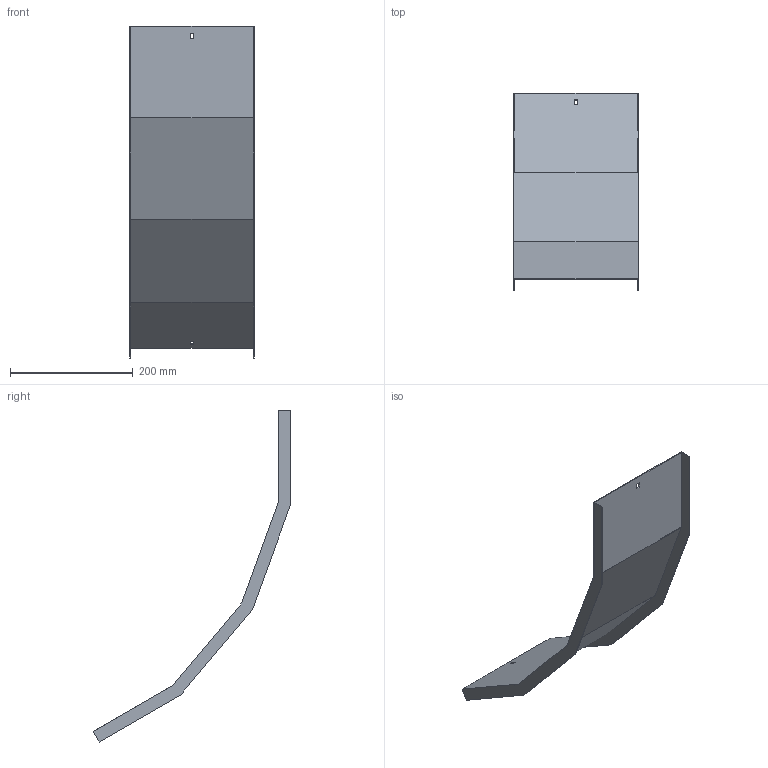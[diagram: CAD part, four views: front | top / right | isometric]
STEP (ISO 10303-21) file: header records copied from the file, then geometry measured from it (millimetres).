
FILE_DESCRIPTION (( 'STEP AP214' ), '1' );
FILE_NAME ('A2X40N5R200X.step', '2025-03-20T09:43:57', ( '' ), ( '' ), 'SwSTEP 2.0', 'SolidWorks 2023', '' );
FILE_SCHEMA (( 'AUTOMOTIVE_DESIGN' ));
Length unit declared in the file: millimetre
Products named in the file (1): A2X40N5R200X
Bounding box: 203 x 322.96 x 542.06 mm (x, y, z)
Volume: 235201.3 mm3; surface area: 316430.1 mm2
Topology: 1 solids, 1 shells, 30 faces, 84 edges, 56 vertices
Faces by surface type: plane 30
Entity records: 979 total; most frequent: CARTESIAN_POINT 171, ORIENTED_EDGE 168, DIRECTION 146, EDGE_CURVE 84, LINE 84, VECTOR 84, VERTEX_POINT 56, EDGE_LOOP 34
